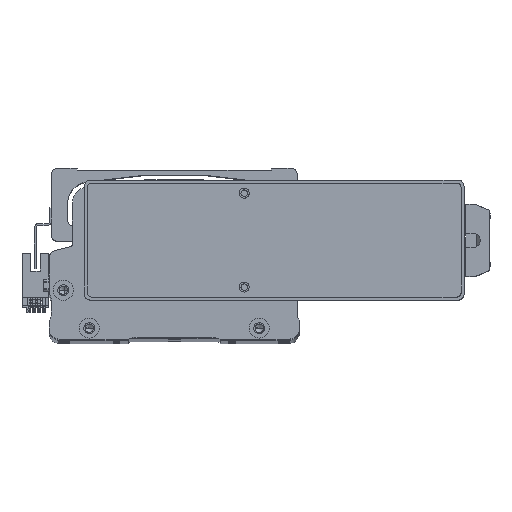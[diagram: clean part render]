
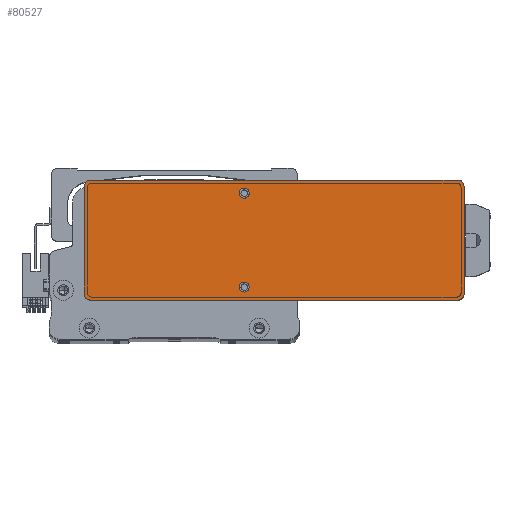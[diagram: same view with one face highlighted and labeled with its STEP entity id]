
A CAD part, top view. The second image highlights one B-rep face of the part: STEP entity #80527.
In plain terms, the highlighted planar face has unit normal (0, 0, 1) as drawn and (0, 0, -1) by its records, which use the part's own axes.
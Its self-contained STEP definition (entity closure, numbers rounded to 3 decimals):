
#333 = EDGE_CURVE ( 'NONE', #44966, #65681, #68895, .T. ) ;
#886 = CARTESIAN_POINT ( 'NONE',  ( -15., 23.5, 0. ) ) ;
#973 = CARTESIAN_POINT ( 'NONE',  ( 95., -27., 0. ) ) ;
#2154 = EDGE_CURVE ( 'NONE', #55096, #41433, #37012, .T. ) ;
#2473 = CIRCLE ( 'NONE', #77357, 2.5 ) ;
#2609 = CIRCLE ( 'NONE', #34902, 3. ) ;
#3403 = DIRECTION ( 'NONE',  ( 1., 0., 0. ) ) ;
#3582 = VECTOR ( 'NONE', #50001, 1000. ) ;
#3714 = CARTESIAN_POINT ( 'NONE',  ( -17.5, -23.5, 0. ) ) ;
#4430 = DIRECTION ( 'NONE',  ( 0., 0., -1. ) ) ;
#5344 = ORIENTED_EDGE ( 'NONE', *, *, #23020, .T. ) ;
#5823 = VERTEX_POINT ( 'NONE', #55142 ) ;
#6243 = FACE_OUTER_BOUND ( 'NONE', #40306, .T. ) ;
#7206 = DIRECTION ( 'NONE',  ( -1., 0., 0. ) ) ;
#7334 = CARTESIAN_POINT ( 'NONE',  ( -12.5, -23.5, 0. ) ) ;
#10721 = EDGE_CURVE ( 'NONE', #39083, #44974, #2473, .T. ) ;
#11360 = EDGE_CURVE ( 'NONE', #5823, #42290, #33773, .T. ) ;
#13544 = ORIENTED_EDGE ( 'NONE', *, *, #22798, .F. ) ;
#14320 = LINE ( 'NONE', #20065, #45793 ) ;
#16526 = ORIENTED_EDGE ( 'NONE', *, *, #64947, .F. ) ;
#17013 = CARTESIAN_POINT ( 'NONE',  ( -15., -23.5, 0. ) ) ;
#18132 = CARTESIAN_POINT ( 'NONE',  ( -15., 23.5, 0. ) ) ;
#18992 = AXIS2_PLACEMENT_3D ( 'NONE', #19964, #63939, #26247 ) ;
#19964 = CARTESIAN_POINT ( 'NONE',  ( -92., 27., 0. ) ) ;
#20065 = CARTESIAN_POINT ( 'NONE',  ( -95., -30., 0. ) ) ;
#20720 = EDGE_CURVE ( 'NONE', #33085, #38111, #33692, .T. ) ;
#21021 = FACE_BOUND ( 'NONE', #22745, .T. ) ;
#21297 = VERTEX_POINT ( 'NONE', #31495 ) ;
#22208 = CARTESIAN_POINT ( 'NONE',  ( -15., -23.5, 0. ) ) ;
#22745 = EDGE_LOOP ( 'NONE', ( #13544, #48991 ) ) ;
#22798 = EDGE_CURVE ( 'NONE', #65681, #44966, #50175, .T. ) ;
#23020 = EDGE_CURVE ( 'NONE', #21297, #41433, #51123, .T. ) ;
#23398 = DIRECTION ( 'NONE',  ( -1., 0., 0. ) ) ;
#24491 = DIRECTION ( 'NONE',  ( -1., 0., 0. ) ) ;
#24919 = ORIENTED_EDGE ( 'NONE', *, *, #51413, .T. ) ;
#26247 = DIRECTION ( 'NONE',  ( 1., 0., 0. ) ) ;
#26447 = VERTEX_POINT ( 'NONE', #46522 ) ;
#27245 = ORIENTED_EDGE ( 'NONE', *, *, #2154, .F. ) ;
#28511 = DIRECTION ( 'NONE',  ( -1., 0., 0. ) ) ;
#31495 = CARTESIAN_POINT ( 'NONE',  ( -95., 27., 0. ) ) ;
#33085 = VERTEX_POINT ( 'NONE', #973 ) ;
#33692 = LINE ( 'NONE', #43372, #46469 ) ;
#33773 = CIRCLE ( 'NONE', #62749, 3. ) ;
#34476 = EDGE_LOOP ( 'NONE', ( #36269, #70553 ) ) ;
#34902 = AXIS2_PLACEMENT_3D ( 'NONE', #42069, #4430, #48388 ) ;
#35716 = CARTESIAN_POINT ( 'NONE',  ( 0., 0., 0. ) ) ;
#36269 = ORIENTED_EDGE ( 'NONE', *, *, #75172, .F. ) ;
#36611 = AXIS2_PLACEMENT_3D ( 'NONE', #18132, #62140, #24491 ) ;
#37012 = LINE ( 'NONE', #43650, #3582 ) ;
#37069 = DIRECTION ( 'NONE',  ( 0., 1., 0. ) ) ;
#37224 = CARTESIAN_POINT ( 'NONE',  ( -92., -27., 0. ) ) ;
#37687 = FACE_BOUND ( 'NONE', #34476, .T. ) ;
#38111 = VERTEX_POINT ( 'NONE', #42848 ) ;
#38525 = DIRECTION ( 'NONE',  ( 1., 0., 0. ) ) ;
#38717 = CIRCLE ( 'NONE', #36611, 2.5 ) ;
#39083 = VERTEX_POINT ( 'NONE', #53981 ) ;
#39126 = AXIS2_PLACEMENT_3D ( 'NONE', #35716, #41752, #42041 ) ;
#39944 = ORIENTED_EDGE ( 'NONE', *, *, #65977, .F. ) ;
#40306 = EDGE_LOOP ( 'NONE', ( #52920, #74502, #39944, #76951, #16526, #5344, #27245, #24919 ) ) ;
#41045 = DIRECTION ( 'NONE',  ( 0., 0., -1. ) ) ;
#41433 = VERTEX_POINT ( 'NONE', #53136 ) ;
#41752 = DIRECTION ( 'NONE',  ( 0., 0., 1. ) ) ;
#42041 = DIRECTION ( 'NONE',  ( 1., 0., 0. ) ) ;
#42069 = CARTESIAN_POINT ( 'NONE',  ( 92., -27., 0. ) ) ;
#42290 = VERTEX_POINT ( 'NONE', #67186 ) ;
#42848 = CARTESIAN_POINT ( 'NONE',  ( 95., 27., 0. ) ) ;
#43372 = CARTESIAN_POINT ( 'NONE',  ( 95., -30., 0. ) ) ;
#43514 = DIRECTION ( 'NONE',  ( 1., 0., 0. ) ) ;
#43650 = CARTESIAN_POINT ( 'NONE',  ( 95., 30., 0. ) ) ;
#44818 = DIRECTION ( 'NONE',  ( 0., 0., -1. ) ) ;
#44966 = VERTEX_POINT ( 'NONE', #7334 ) ;
#44974 = VERTEX_POINT ( 'NONE', #51313 ) ;
#45301 = DIRECTION ( 'NONE',  ( 0., -1., 0. ) ) ;
#45793 = VECTOR ( 'NONE', #45301, 1000. ) ;
#46469 = VECTOR ( 'NONE', #37069, 1000. ) ;
#46522 = CARTESIAN_POINT ( 'NONE',  ( 92., -30., 0. ) ) ;
#48388 = DIRECTION ( 'NONE',  ( 1., 0., 0. ) ) ;
#48991 = ORIENTED_EDGE ( 'NONE', *, *, #333, .F. ) ;
#50001 = DIRECTION ( 'NONE',  ( -1., 0., 0. ) ) ;
#50175 = CIRCLE ( 'NONE', #76839, 2.5 ) ;
#51123 = CIRCLE ( 'NONE', #18992, 3. ) ;
#51313 = CARTESIAN_POINT ( 'NONE',  ( -17.5, 23.5, 0. ) ) ;
#51413 = EDGE_CURVE ( 'NONE', #55096, #38111, #71460, .T. ) ;
#51990 = EDGE_CURVE ( 'NONE', #33085, #26447, #2609, .T. ) ;
#52920 = ORIENTED_EDGE ( 'NONE', *, *, #20720, .F. ) ;
#53136 = CARTESIAN_POINT ( 'NONE',  ( -92., 30., 0. ) ) ;
#53981 = CARTESIAN_POINT ( 'NONE',  ( -12.5, 23.5, 0. ) ) ;
#55096 = VERTEX_POINT ( 'NONE', #60513 ) ;
#55142 = CARTESIAN_POINT ( 'NONE',  ( -92., -30., 0. ) ) ;
#57243 = CARTESIAN_POINT ( 'NONE',  ( 95., -30., 0. ) ) ;
#60513 = CARTESIAN_POINT ( 'NONE',  ( 92., 30., 0. ) ) ;
#61031 = DIRECTION ( 'NONE',  ( 0., 0., -1. ) ) ;
#62140 = DIRECTION ( 'NONE',  ( 0., 0., -1. ) ) ;
#62749 = AXIS2_PLACEMENT_3D ( 'NONE', #37224, #81113, #43514 ) ;
#63939 = DIRECTION ( 'NONE',  ( 0., 0., -1. ) ) ;
#64279 = LINE ( 'NONE', #57243, #76989 ) ;
#64947 = EDGE_CURVE ( 'NONE', #21297, #42290, #14320, .T. ) ;
#65681 = VERTEX_POINT ( 'NONE', #3714 ) ;
#65977 = EDGE_CURVE ( 'NONE', #5823, #26447, #64279, .T. ) ;
#66179 = DIRECTION ( 'NONE',  ( 0., 0., -1. ) ) ;
#67094 = PLANE ( 'NONE',  #39126 ) ;
#67186 = CARTESIAN_POINT ( 'NONE',  ( -95., -27., 0. ) ) ;
#68895 = CIRCLE ( 'NONE', #72983, 2.5 ) ;
#70553 = ORIENTED_EDGE ( 'NONE', *, *, #10721, .F. ) ;
#71460 = CIRCLE ( 'NONE', #73345, 3. ) ;
#72983 = AXIS2_PLACEMENT_3D ( 'NONE', #17013, #61031, #23398 ) ;
#73345 = AXIS2_PLACEMENT_3D ( 'NONE', #78632, #41045, #3403 ) ;
#74502 = ORIENTED_EDGE ( 'NONE', *, *, #51990, .T. ) ;
#75172 = EDGE_CURVE ( 'NONE', #44974, #39083, #38717, .T. ) ;
#76839 = AXIS2_PLACEMENT_3D ( 'NONE', #22208, #66179, #28511 ) ;
#76951 = ORIENTED_EDGE ( 'NONE', *, *, #11360, .T. ) ;
#76989 = VECTOR ( 'NONE', #38525, 1000. ) ;
#77357 = AXIS2_PLACEMENT_3D ( 'NONE', #886, #44818, #7206 ) ;
#78632 = CARTESIAN_POINT ( 'NONE',  ( 92., 27., 0. ) ) ;
#80527 = ADVANCED_FACE ( 'NONE', ( #37687, #6243, #21021 ), #67094, .F. ) ;
#81113 = DIRECTION ( 'NONE',  ( 0., 0., -1. ) ) ;
